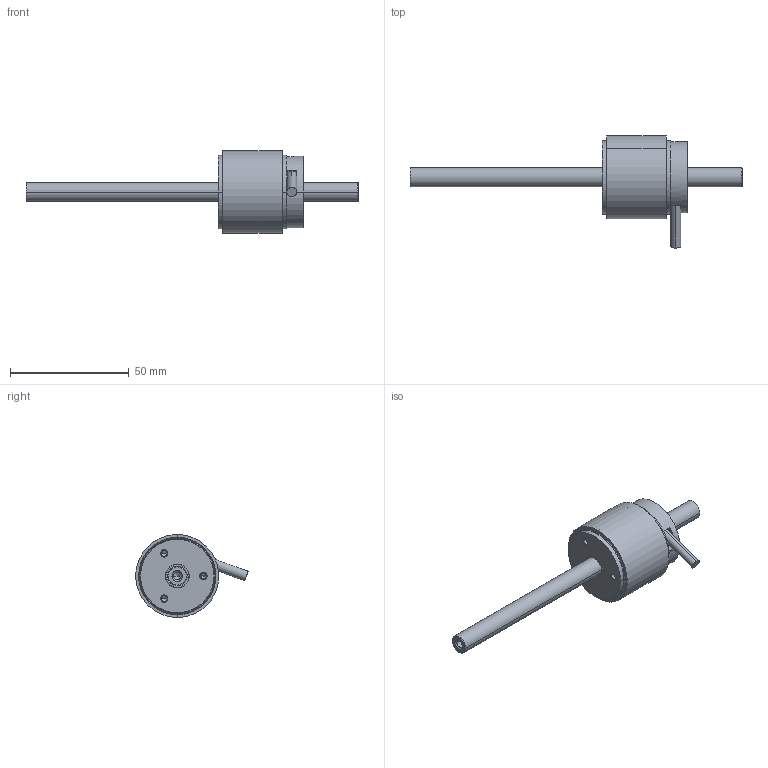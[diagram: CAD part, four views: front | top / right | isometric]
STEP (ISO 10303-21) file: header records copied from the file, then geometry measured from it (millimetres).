
FILE_DESCRIPTION (( 'STEP AP214' ), '1' );
FILE_NAME ('LinACE_d8_radial.STEP', '2020-06-24T05:57:12', ( '' ), ( '' ), 'SwSTEP 2.0', 'SolidWorks 2016', '' );
FILE_SCHEMA (( 'AUTOMOTIVE_DESIGN' ));
Length unit declared in the file: millimetre
Products named in the file (6): LinACE_axial; Pokrov d12; socket countersunk head screw_din_DIN 7991 - M3 x 10 --- 6.8N; Cable - radial; gred_d8x150; LinACE_d8_radial
Assembly tree (7 placements, depth 2):
  LinACE_d8_radial
    LinACE_axial
    gred_d8x150
    Cable - radial
    Pokrov d12
    socket countersunk head screw_din_DIN 7991 - M3 x 10 --- 6.8N  x3
Bounding box: 140 x 47.29 x 34.89 mm (x, y, z)
Volume: 27646.2 mm3; surface area: 21026.2 mm2
Topology: 12 solids, 12 shells, 414 faces, 965 edges, 582 vertices
Faces by surface type: cylinder 159, plane 131, cone 100, torus 24
Entity records: 13533 total; most frequent: CARTESIAN_POINT 2050, DIRECTION 1947, ORIENTED_EDGE 1654, EDGE_CURVE 827, AXIS2_PLACEMENT_3D 781, VERTEX_POINT 520, EDGE_LOOP 425, CIRCLE 409
